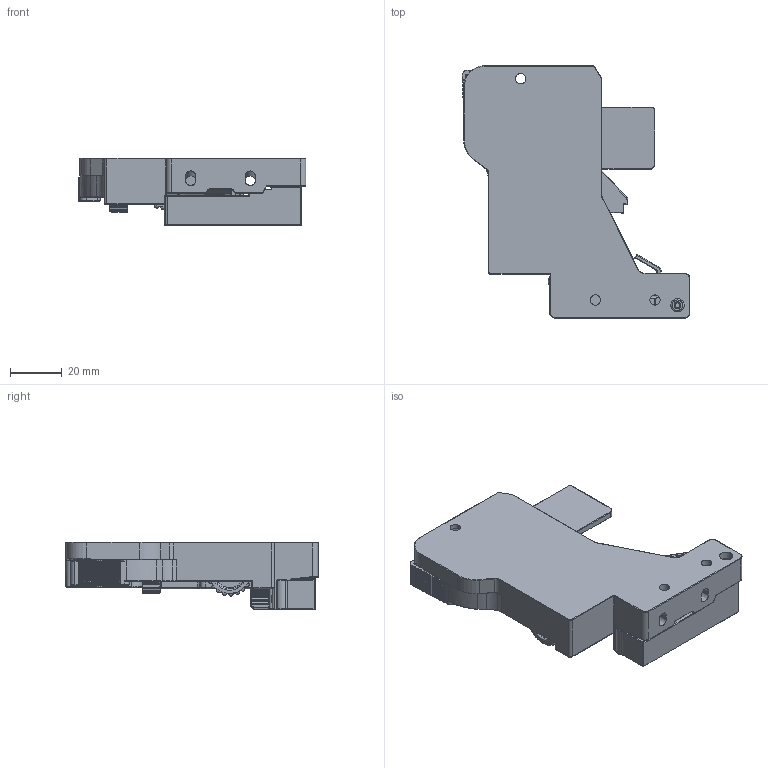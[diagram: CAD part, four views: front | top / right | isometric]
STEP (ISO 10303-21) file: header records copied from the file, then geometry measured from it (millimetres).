
FILE_DESCRIPTION (( 'STEP AP203' ), '1' );
FILE_NAME ('0TSD02-A--R.STEP', '2021-04-21T06:10:10', ( 'df' ), ( 'Microsoft' ), 'SwSTEP 2.0', 'SolidWorks 2018', '' );
FILE_SCHEMA (( 'CONFIG_CONTROL_DESIGN' ));
Length unit declared in the file: millimetre
Products named in the file (1): 0TSD02-A--R
Bounding box: 88.02 x 97.48 x 26 mm (x, y, z)
Volume: 75147.8 mm3; surface area: 26098.6 mm2
Topology: 1 solids, 6 shells, 1564 faces, 4181 edges, 2608 vertices
Faces by surface type: cylinder 721, plane 356, bspline 310, torus 145, cone 28, sphere 4
Entity records: 60863 total; most frequent: CARTESIAN_POINT 26215, ORIENTED_EDGE 8306, DIRECTION 5795, EDGE_CURVE 4153, VERTEX_POINT 2608, AXIS2_PLACEMENT_3D 2182, B_SPLINE_CURVE_WITH_KNOTS 1729, EDGE_LOOP 1587
